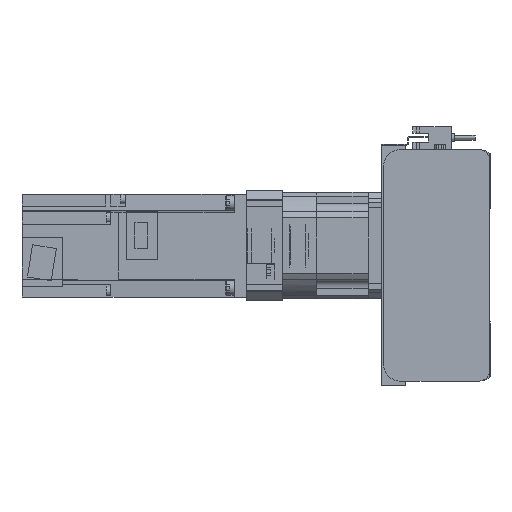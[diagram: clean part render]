
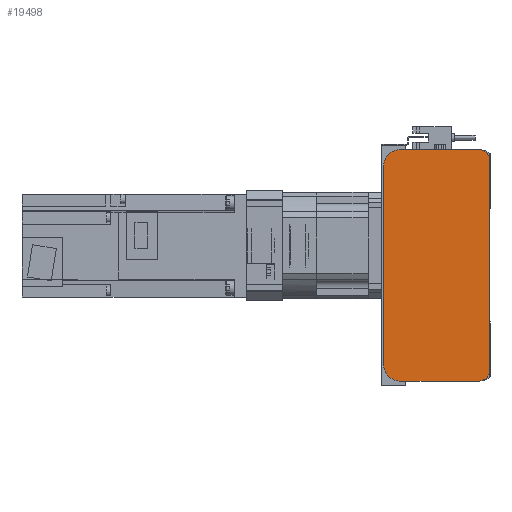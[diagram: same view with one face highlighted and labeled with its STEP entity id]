
A CAD part, left-side view. The second image highlights one B-rep face of the part: STEP entity #19498.
In plain terms, the highlighted planar face has unit normal (-1, 0, 0).
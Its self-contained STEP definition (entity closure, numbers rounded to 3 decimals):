
#1236=CIRCLE('',#21359,5.);
#1237=CIRCLE('',#21362,5.);
#1238=CIRCLE('',#21365,10.);
#1239=CIRCLE('',#21368,10.);
#5803=ORIENTED_EDGE('',*,*,#8823,.F.);
#5804=ORIENTED_EDGE('',*,*,#8980,.F.);
#5805=ORIENTED_EDGE('',*,*,#8972,.F.);
#5806=ORIENTED_EDGE('',*,*,#8970,.F.);
#5807=ORIENTED_EDGE('',*,*,#8611,.F.);
#5808=ORIENTED_EDGE('',*,*,#8969,.F.);
#5809=ORIENTED_EDGE('',*,*,#8967,.F.);
#5810=ORIENTED_EDGE('',*,*,#8965,.F.);
#5811=ORIENTED_EDGE('',*,*,#8963,.F.);
#5812=ORIENTED_EDGE('',*,*,#8961,.F.);
#8611=EDGE_CURVE('',#10702,#10703,#12428,.T.);
#8823=EDGE_CURVE('',#10803,#10804,#12571,.T.);
#8961=EDGE_CURVE('',#10804,#10887,#12700,.T.);
#8963=EDGE_CURVE('',#10887,#10888,#1236,.T.);
#8965=EDGE_CURVE('',#10888,#10889,#12703,.T.);
#8967=EDGE_CURVE('',#10889,#10890,#1237,.T.);
#8969=EDGE_CURVE('',#10890,#10702,#12706,.T.);
#8970=EDGE_CURVE('',#10703,#10891,#1238,.T.);
#8972=EDGE_CURVE('',#10891,#10892,#12708,.T.);
#8980=EDGE_CURVE('',#10892,#10803,#1239,.T.);
#10702=VERTEX_POINT('',#32016);
#10703=VERTEX_POINT('',#32018);
#10803=VERTEX_POINT('',#32405);
#10804=VERTEX_POINT('',#32407);
#10887=VERTEX_POINT('',#32684);
#10888=VERTEX_POINT('',#32688);
#10889=VERTEX_POINT('',#32692);
#10890=VERTEX_POINT('',#32696);
#10891=VERTEX_POINT('',#32702);
#10892=VERTEX_POINT('',#32706);
#12428=LINE('',#32017,#14161);
#12571=LINE('',#32406,#14304);
#12700=LINE('',#32683,#14433);
#12703=LINE('',#32691,#14436);
#12706=LINE('',#32699,#14439);
#12708=LINE('',#32705,#14441);
#14161=VECTOR('',#25848,1000.);
#14304=VECTOR('',#26281,1000.);
#14433=VECTOR('',#26540,1000.);
#14436=VECTOR('',#26549,1000.);
#14439=VECTOR('',#26558,1000.);
#14441=VECTOR('',#26566,1000.);
#15853=EDGE_LOOP('',(#5803,#5804,#5805,#5806,#5807,#5808,#5809,#5810,#5811,
#5812));
#17532=FACE_BOUND('',#15853,.T.);
#18471=PLANE('',#21369);
#19498=ADVANCED_FACE('',(#17532),#18471,.F.);
#21359=AXIS2_PLACEMENT_3D('',#32687,#26544,#26545);
#21362=AXIS2_PLACEMENT_3D('',#32695,#26553,#26554);
#21365=AXIS2_PLACEMENT_3D('',#32701,#26561,#26562);
#21368=AXIS2_PLACEMENT_3D('',#32719,#26576,#26577);
#21369=AXIS2_PLACEMENT_3D('',#32720,#26578,#26579);
#25848=DIRECTION('',(0.,1.,0.));
#26281=DIRECTION('',(0.,-1.,0.));
#26540=DIRECTION('',(0.,-0.942,-0.336));
#26544=DIRECTION('',(1.,0.,0.));
#26545=DIRECTION('',(0.,0.,-1.));
#26549=DIRECTION('',(0.,0.,-1.));
#26553=DIRECTION('',(1.,0.,0.));
#26554=DIRECTION('',(0.,0.,-1.));
#26558=DIRECTION('',(0.,0.942,-0.336));
#26561=DIRECTION('',(1.,0.,0.));
#26562=DIRECTION('',(0.,0.,-1.));
#26566=DIRECTION('',(0.,0.,1.));
#26576=DIRECTION('',(1.,0.,0.));
#26577=DIRECTION('',(0.,0.,-1.));
#26578=DIRECTION('',(1.,0.,0.));
#26579=DIRECTION('',(0.,0.,-1.));
#32016=CARTESIAN_POINT('',(-10.,6.,-67.5));
#32017=CARTESIAN_POINT('',(-10.,6.,-67.5));
#32018=CARTESIAN_POINT('',(-10.,52.,-67.5));
#32405=CARTESIAN_POINT('',(-10.,52.,67.5));
#32406=CARTESIAN_POINT('',(-10.,52.,67.5));
#32407=CARTESIAN_POINT('',(-10.,6.,67.5));
#32683=CARTESIAN_POINT('',(-10.,6.,67.5));
#32684=CARTESIAN_POINT('',(-10.,3.822,66.724));
#32687=CARTESIAN_POINT('',(-10.,5.5,62.014));
#32688=CARTESIAN_POINT('',(-10.,0.5,62.014));
#32691=CARTESIAN_POINT('',(-10.,0.5,62.014));
#32692=CARTESIAN_POINT('',(-10.,0.5,-62.014));
#32695=CARTESIAN_POINT('',(-10.,5.5,-62.014));
#32696=CARTESIAN_POINT('',(-10.,3.822,-66.724));
#32699=CARTESIAN_POINT('',(-10.,3.822,-66.724));
#32701=CARTESIAN_POINT('',(-10.,52.,-57.5));
#32702=CARTESIAN_POINT('',(-10.,62.,-57.5));
#32705=CARTESIAN_POINT('',(-10.,62.,-57.5));
#32706=CARTESIAN_POINT('',(-10.,62.,57.5));
#32719=CARTESIAN_POINT('',(-10.,52.,57.5));
#32720=CARTESIAN_POINT('',(-10.,5.5,62.014));
